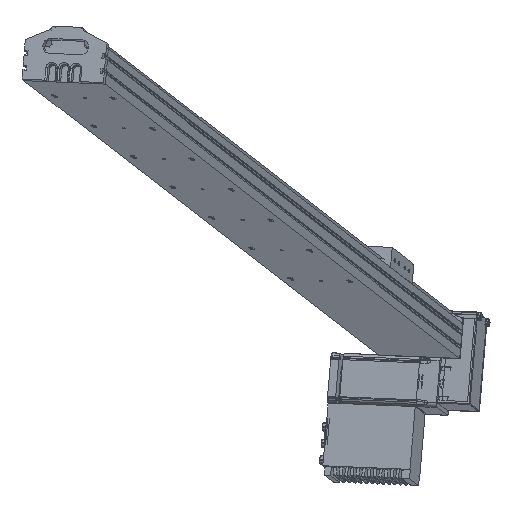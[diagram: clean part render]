
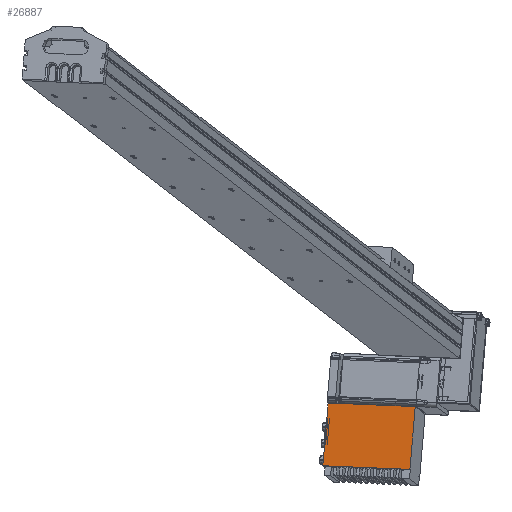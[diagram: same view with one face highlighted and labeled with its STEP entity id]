
A CAD part, front view. The second image highlights one B-rep face of the part: STEP entity #26887.
In plain terms, the highlighted planar face has unit normal (-0.234, -0.955, 0.181) as drawn and (-1, 0, 0) by its records, which use the part's own axes.
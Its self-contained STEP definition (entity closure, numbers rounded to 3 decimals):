
#3708 = DIRECTION ( 'NONE',  ( 0., -1., 0. ) ) ;
#3709 = VECTOR ( 'NONE', #3708, 1000. ) ;
#3710 = CARTESIAN_POINT ( 'NONE',  ( -119.668, 119.474, 107. ) ) ;
#3711 = LINE ( 'NONE', #3710, #3709 ) ;
#3712 = CARTESIAN_POINT ( 'NONE',  ( -119.668, 120.474, 0. ) ) ;
#3784 = CARTESIAN_POINT ( 'NONE',  ( -119.668, 196.474, 107. ) ) ;
#3796 = DIRECTION ( 'NONE',  ( 0., 0., -1. ) ) ;
#3797 = VECTOR ( 'NONE', #3796, 1000. ) ;
#3798 = CARTESIAN_POINT ( 'NONE',  ( -119.668, 120.474, 109. ) ) ;
#3802 = LINE ( 'NONE', #3798, #3797 ) ;
#3803 = DIRECTION ( 'NONE',  ( 0., -1., 0. ) ) ;
#3804 = VECTOR ( 'NONE', #3803, 1000. ) ;
#3817 = CARTESIAN_POINT ( 'NONE',  ( -119.668, 120.474, 0. ) ) ;
#3818 = LINE ( 'NONE', #3817, #3804 ) ;
#3819 = DIRECTION ( 'NONE',  ( 0., 0., -1. ) ) ;
#3820 = VECTOR ( 'NONE', #3819, 1000. ) ;
#3821 = CARTESIAN_POINT ( 'NONE',  ( -119.668, 196.474, 109. ) ) ;
#3822 = LINE ( 'NONE', #3821, #3820 ) ;
#3823 = DIRECTION ( 'NONE',  ( 0., 0., -1. ) ) ;
#3824 = VECTOR ( 'NONE', #3823, 1000. ) ;
#3825 = CARTESIAN_POINT ( 'NONE',  ( -119.668, 196.474, 109. ) ) ;
#3826 = LINE ( 'NONE', #3825, #3824 ) ;
#3827 = DIRECTION ( 'NONE',  ( 0., 1., 0. ) ) ;
#3828 = DIRECTION ( 'NONE',  ( 1., 0., 0. ) ) ;
#3829 = AXIS2_PLACEMENT_3D ( 'NONE', #3833, #3828, #3827 ) ;
#3830 = CARTESIAN_POINT ( 'NONE',  ( -119.668, 196.474, 0. ) ) ;
#3831 = FACE_OUTER_BOUND ( 'NONE', #26901, .T. ) ;
#3832 = CARTESIAN_POINT ( 'NONE',  ( -119.668, 120.474, 107. ) ) ;
#3833 = CARTESIAN_POINT ( 'NONE',  ( -119.668, 120.474, 109. ) ) ;
#3834 = PLANE ( 'NONE',  #3829 ) ;
#3837 = CARTESIAN_POINT ( 'NONE',  ( -119.668, 196.474, 15. ) ) ;
#3840 = CARTESIAN_POINT ( 'NONE',  ( -119.668, 196.474, 10. ) ) ;
#3875 = DIRECTION ( 'NONE',  ( 0., 0., -1. ) ) ;
#3876 = VECTOR ( 'NONE', #3875, 1000. ) ;
#3877 = CARTESIAN_POINT ( 'NONE',  ( -119.668, 196.474, 109. ) ) ;
#3878 = LINE ( 'NONE', #3877, #3876 ) ;
#26822 = EDGE_CURVE ( 'NONE', #26885, #26886, #3711, .T. ) ;
#26825 = VERTEX_POINT ( 'NONE', #3712 ) ;
#26827 = ORIENTED_EDGE ( 'NONE', *, *, #26894, .T. ) ;
#26872 = EDGE_CURVE ( 'NONE', #26895, #26825, #3818, .T. ) ;
#26874 = EDGE_CURVE ( 'NONE', #26886, #26825, #3802, .T. ) ;
#26876 = ORIENTED_EDGE ( 'NONE', *, *, #26874, .F. ) ;
#26884 = ORIENTED_EDGE ( 'NONE', *, *, #26872, .T. ) ;
#26885 = VERTEX_POINT ( 'NONE', #3784 ) ;
#26886 = VERTEX_POINT ( 'NONE', #3832 ) ;
#26887 = ADVANCED_FACE ( 'NONE', ( #3831 ), #3834, .F. ) ;
#26888 = VERTEX_POINT ( 'NONE', #3840 ) ;
#26889 = ORIENTED_EDGE ( 'NONE', *, *, #26822, .F. ) ;
#26890 = EDGE_CURVE ( 'NONE', #26885, #26892, #3826, .T. ) ;
#26891 = ORIENTED_EDGE ( 'NONE', *, *, #26896, .T. ) ;
#26892 = VERTEX_POINT ( 'NONE', #3837 ) ;
#26893 = ORIENTED_EDGE ( 'NONE', *, *, #26890, .T. ) ;
#26894 = EDGE_CURVE ( 'NONE', #26892, #26888, #3822, .T. ) ;
#26895 = VERTEX_POINT ( 'NONE', #3830 ) ;
#26896 = EDGE_CURVE ( 'NONE', #26888, #26895, #3878, .T. ) ;
#26901 = EDGE_LOOP ( 'NONE', ( #26889, #26893, #26827, #26891, #26884, #26876 ) ) ;
